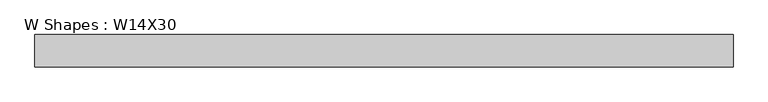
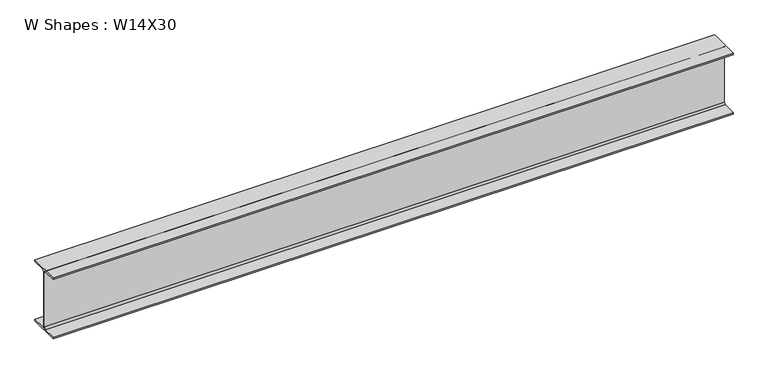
"""IFC4 building model written with IfcOpenShell, lengths in millimetres: beam geometry, W Shapes : W14X30."""

from ifc_helpers import new_model, si_unit, point, frame, frame_2d, origin, place, context, project, spatial, polyline, circle_curve, trimmed, segment, composite_curve, outline, extrude, source, transform, mapped, element, save


def w_shapes_w14x30_1e20ff68(model_context):
    return source(origin(), model_context, "Body", "SweptSolid", [
        extrude(outline(composite_curve([segment(polyline([(85.471, -165.481), (85.471, -175.26), (-85.471, -175.26), (-85.471, -165.481), (-13.589, -165.481)]), True, "CONTINUOUS"), segment(trimmed(circle_curve(frame_2d((-13.589, -155.321)), 10.16), [point((-13.589, -165.481))], [point((-3.429, -155.321))], True, "CARTESIAN"), True, "CONTINUOUS"), segment(polyline([(-3.429, -155.321), (-3.429, 155.321)]), True, "CONTINUOUS"), segment(trimmed(circle_curve(frame_2d((-13.589, 155.321)), 10.16), [point((-3.429, 155.321))], [point((-13.589, 165.481))], True, "CARTESIAN"), True, "CONTINUOUS"), segment(polyline([(-13.589, 165.481), (-85.471, 165.481), (-85.471, 175.26), (85.471, 175.26), (85.471, 165.481), (13.589, 165.481)]), True, "CONTINUOUS"), segment(trimmed(circle_curve(frame_2d((13.589, 155.321)), 10.16), [point((13.589, 165.481))], [point((3.429, 155.321))], True, "CARTESIAN"), True, "CONTINUOUS"), segment(polyline([(3.429, 155.321), (3.429, -155.321)]), True, "CONTINUOUS"), segment(trimmed(circle_curve(frame_2d((13.589, -155.321)), 10.16), [point((3.429, -155.321))], [point((13.589, -165.481))], True, "CARTESIAN"), True, "CONTINUOUS"), segment(polyline([(13.589, -165.481), (85.471, -165.481)]), True, "CONTINUOUS")], self_intersect=False)), frame((-1840.8101826, 0.0, 0.0), z_axis=(1.0, 0.0, 0.0), x_axis=(0.0, 1.0, 0.0)), (0.0, 0.0, 1.0), 3681.6203653),
    ])


if __name__ == "__main__":
    model = new_model("IFC4")
    model_context = context("Model", 3, world=origin())
    ifc_project = project(units=[si_unit("LENGTHUNIT", "METRE", prefix="MILLI")], contexts=[model_context])
    site = spatial("IfcSite", under=ifc_project)
    building = spatial("IfcBuilding", under=site)
    placement = place(None, origin())
    w_shapes_w14x30_shape = w_shapes_w14x30_1e20ff68(model_context)
    element("IfcBeam", 1, ObjectType="W Shapes : W14X30", at=placement, inside=building, context=model_context, shape_type="MappedRepresentation", body=[
        mapped(w_shapes_w14x30_shape, transform((0.0, 0.0, 0.0), x_axis=(1.0, 0.0, 0.0), y_axis=(0.0, 1.0, 0.0), z_axis=(0.0, 0.0, 1.0))),
    ])
    save(model, "model.ifc")
